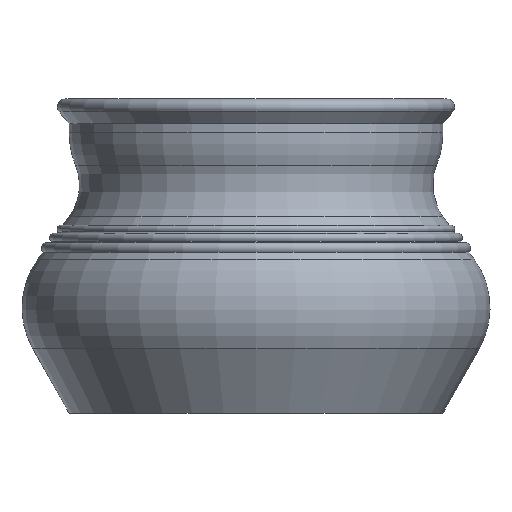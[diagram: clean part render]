
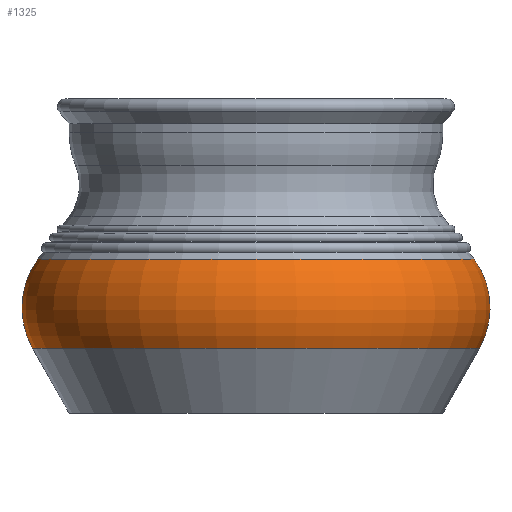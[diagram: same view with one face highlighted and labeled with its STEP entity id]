
A CAD part, front view. The second image highlights one B-rep face of the part: STEP entity #1325.
In plain terms, the highlighted toroidal (fillet/blend) face has major radius 96.641 mm and minor radius 52.359 mm.
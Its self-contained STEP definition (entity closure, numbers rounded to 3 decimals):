
#22=TOROIDAL_SURFACE('',#1505,96.641,52.359);
#166=FACE_OUTER_BOUND('',#284,.T.);
#284=EDGE_LOOP('',(#1208,#1209,#1210,#1211));
#526=CIRCLE('',#1467,142.263);
#549=CIRCLE('',#1506,138.836);
#550=CIRCLE('',#1507,52.359);
#653=VERTEX_POINT('',#2240);
#669=VERTEX_POINT('',#2303);
#818=EDGE_CURVE('',#653,#653,#526,.T.);
#849=EDGE_CURVE('',#669,#669,#549,.T.);
#850=EDGE_CURVE('',#669,#653,#550,.T.);
#1208=ORIENTED_EDGE('',*,*,#849,.F.);
#1209=ORIENTED_EDGE('',*,*,#850,.T.);
#1210=ORIENTED_EDGE('',*,*,#818,.T.);
#1211=ORIENTED_EDGE('',*,*,#850,.F.);
#1325=ADVANCED_FACE('',(#166),#22,.T.);
#1467=AXIS2_PLACEMENT_3D('',#2241,#1837,#1838);
#1505=AXIS2_PLACEMENT_3D('',#2302,#1921,#1922);
#1506=AXIS2_PLACEMENT_3D('',#2304,#1923,#1924);
#1507=AXIS2_PLACEMENT_3D('',#2305,#1925,#1926);
#1837=DIRECTION('center_axis',(0.,0.,1.));
#1838=DIRECTION('ref_axis',(1.,0.,0.));
#1921=DIRECTION('center_axis',(0.,0.,1.));
#1922=DIRECTION('ref_axis',(1.,0.,0.));
#1923=DIRECTION('center_axis',(0.,0.,1.));
#1924=DIRECTION('ref_axis',(1.,0.,0.));
#1925=DIRECTION('center_axis',(0.,-1.,0.));
#1926=DIRECTION('ref_axis',(-1.,0.,0.));
#2240=CARTESIAN_POINT('',(-142.263,0.,41.308));
#2241=CARTESIAN_POINT('Origin',(0.,0.,41.308));
#2302=CARTESIAN_POINT('Origin',(0.,0.,67.));
#2303=CARTESIAN_POINT('',(-138.836,0.,98.));
#2304=CARTESIAN_POINT('Origin',(0.,0.,98.));
#2305=CARTESIAN_POINT('Origin',(-96.641,0.,
67.));
